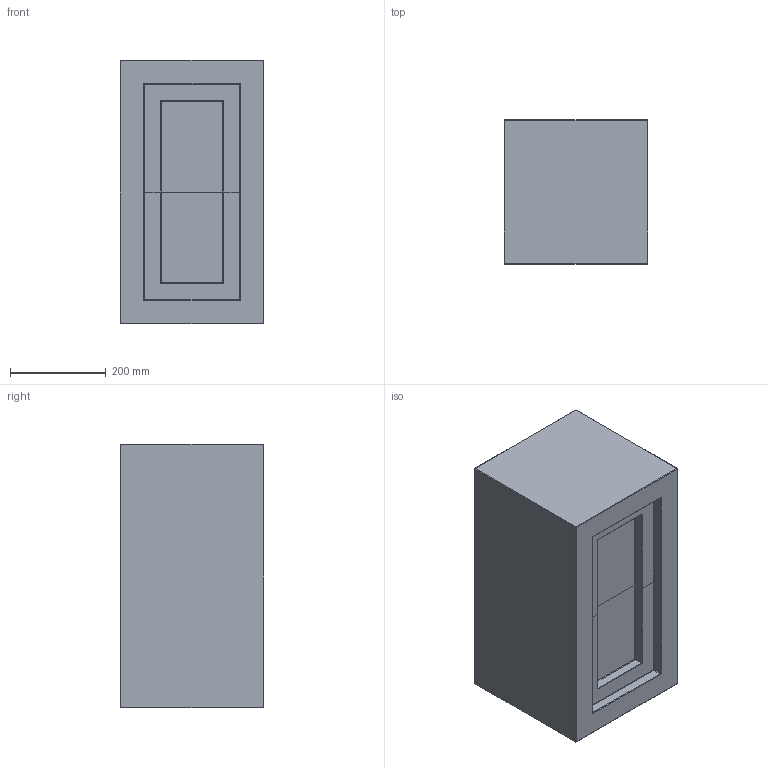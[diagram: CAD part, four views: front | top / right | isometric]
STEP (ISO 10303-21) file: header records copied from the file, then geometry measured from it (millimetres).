
FILE_DESCRIPTION(/* description */ (''),/* implementation_level */ '2;1');
FILE_NAME(/* name */ 'Podium Medio',/* time_stamp */ '2021-06-09T10:23:55+02:00',/* author */ (''),/* organization */ (''),/* preprocessor_version */ 'ST-DEVELOPER v15',/* originating_system */ '',/* authorisation */ '');
FILE_SCHEMA (('AUTOMOTIVE_DESIGN'));
Length unit declared in the file: millimetre
Products named in the file (1): Document
Bounding box: 300 x 300 x 550 mm (x, y, z)
Volume: 43923080 mm3; surface area: 926710.1 mm2
Topology: 1 solids, 1 shells, 154 faces, 318 edges, 168 vertices
Faces by surface type: bspline 116, plane 38
Entity records: 4079 total; most frequent: CARTESIAN_POINT 2186, ORIENTED_EDGE 636, EDGE_CURVE 318, VERTEX_POINT 168, B_SPLINE_CURVE_WITH_KNOTS 166, EDGE_LOOP 156, ADVANCED_FACE 154, FACE_OUTER_BOUND 154
